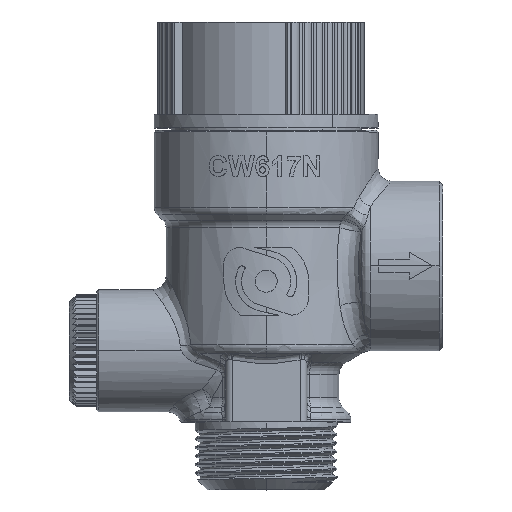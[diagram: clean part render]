
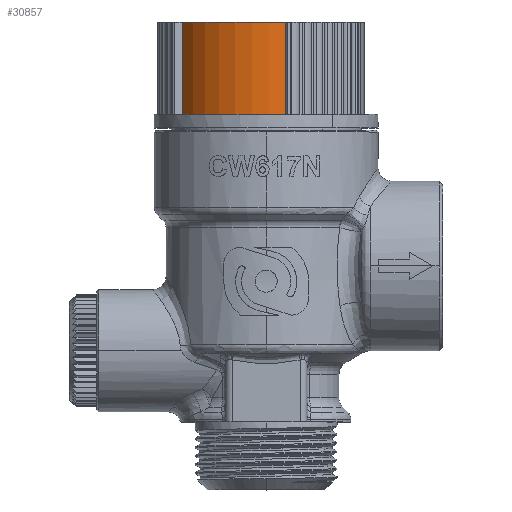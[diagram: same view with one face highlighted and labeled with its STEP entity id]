
A CAD part, top view. The second image highlights one B-rep face of the part: STEP entity #30857.
In plain terms, the highlighted cylindrical face has radius 14.5 mm (diameter 29 mm), a partial arc.
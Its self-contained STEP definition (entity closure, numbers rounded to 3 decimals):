
#6111 = CIRCLE ( 'NONE', #39098, 14.5 ) ;
#9083 = FACE_OUTER_BOUND ( 'NONE', #34328, .T. ) ;
#9847 = CARTESIAN_POINT ( 'NONE',  ( -6.128, 3., 13.141 ) ) ;
#10234 = CARTESIAN_POINT ( 'NONE',  ( 0., 3., 0. ) ) ;
#11340 = AXIS2_PLACEMENT_3D ( 'NONE', #10234, #28254, #46215 ) ;
#11395 = AXIS2_PLACEMENT_3D ( 'NONE', #54214, #40379, #53075 ) ;
#13577 = VECTOR ( 'NONE', #35856, 1000. ) ;
#17938 = VERTEX_POINT ( 'NONE', #20412 ) ;
#18675 = CARTESIAN_POINT ( 'NONE',  ( -6.128, 3., 13.141 ) ) ;
#18835 = CIRCLE ( 'NONE', #11340, 14.5 ) ;
#20412 = CARTESIAN_POINT ( 'NONE',  ( -14.445, 3., -1.264 ) ) ;
#20678 = ORIENTED_EDGE ( 'NONE', *, *, #34785, .T. ) ;
#26735 = ORIENTED_EDGE ( 'NONE', *, *, #37588, .T. ) ;
#27206 = VERTEX_POINT ( 'NONE', #9847 ) ;
#28082 = DIRECTION ( 'NONE',  ( 0., 1., 0. ) ) ;
#28254 = DIRECTION ( 'NONE',  ( 0., 1., 0. ) ) ;
#28786 = ORIENTED_EDGE ( 'NONE', *, *, #47822, .T. ) ;
#29385 = CARTESIAN_POINT ( 'NONE',  ( -14.445, 16.6, -1.264 ) ) ;
#30857 = ADVANCED_FACE ( 'NONE', ( #9083 ), #44503, .T. ) ;
#32772 = CARTESIAN_POINT ( 'NONE',  ( -14.445, 3., -1.264 ) ) ;
#33725 = DIRECTION ( 'NONE',  ( 0., -1., 0. ) ) ;
#33995 = EDGE_CURVE ( 'NONE', #17938, #39745, #50466, .T. ) ;
#34328 = EDGE_LOOP ( 'NONE', ( #20678, #35254, #28786, #26735 ) ) ;
#34785 = EDGE_CURVE ( 'NONE', #39764, #39745, #6111, .T. ) ;
#35254 = ORIENTED_EDGE ( 'NONE', *, *, #33995, .F. ) ;
#35856 = DIRECTION ( 'NONE',  ( 0., 1., 0. ) ) ;
#37588 = EDGE_CURVE ( 'NONE', #27206, #39764, #41162, .T. ) ;
#39098 = AXIS2_PLACEMENT_3D ( 'NONE', #42604, #33725, #51745 ) ;
#39745 = VERTEX_POINT ( 'NONE', #29385 ) ;
#39764 = VERTEX_POINT ( 'NONE', #51192 ) ;
#40379 = DIRECTION ( 'NONE',  ( 0., 1., 0. ) ) ;
#41162 = LINE ( 'NONE', #18675, #13577 ) ;
#42604 = CARTESIAN_POINT ( 'NONE',  ( 0., 16.6, 0. ) ) ;
#44503 = CYLINDRICAL_SURFACE ( 'NONE', #11395, 14.5 ) ;
#44678 = VECTOR ( 'NONE', #28082, 1000. ) ;
#46215 = DIRECTION ( 'NONE',  ( 0., 0., 1. ) ) ;
#47822 = EDGE_CURVE ( 'NONE', #17938, #27206, #18835, .T. ) ;
#50466 = LINE ( 'NONE', #32772, #44678 ) ;
#51192 = CARTESIAN_POINT ( 'NONE',  ( -6.128, 16.6, 13.141 ) ) ;
#51745 = DIRECTION ( 'NONE',  ( 0., 0., 1. ) ) ;
#53075 = DIRECTION ( 'NONE',  ( 0., 0., 1. ) ) ;
#54214 = CARTESIAN_POINT ( 'NONE',  ( 0., 3., 0. ) ) ;
